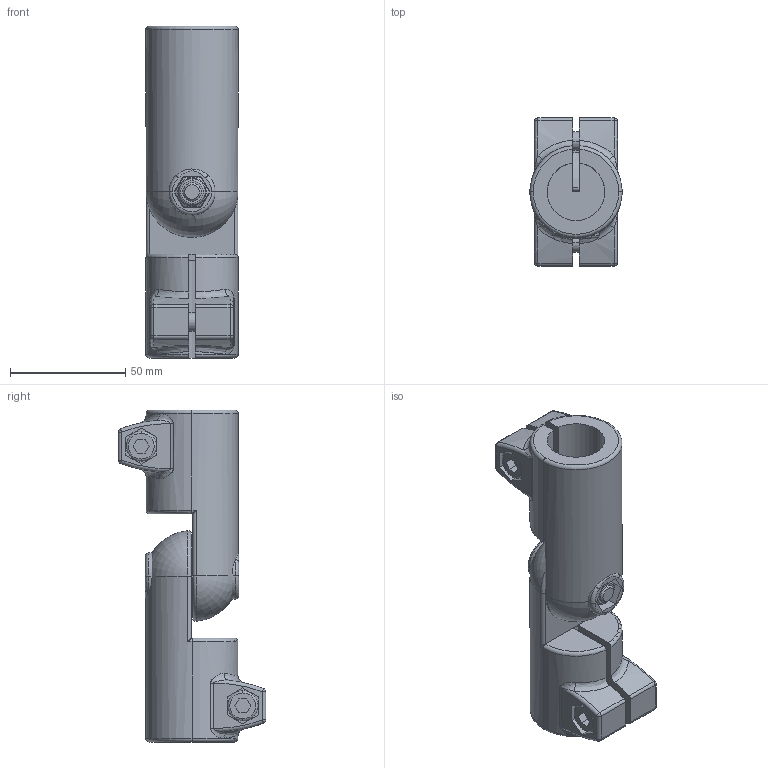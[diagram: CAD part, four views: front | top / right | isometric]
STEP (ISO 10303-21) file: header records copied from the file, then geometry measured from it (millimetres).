
FILE_DESCRIPTION (( 'STEP AP214' ), '1' );
FILE_NAME ('286-B25-B30-T-2-SW.step', '2021-12-02T12:14:23', ( '' ), ( '' ), 'SwSTEP 2.0', 'SolidWorks 2019', '' );
FILE_SCHEMA (( 'AUTOMOTIVE_DESIGN' ));
Length unit declared in the file: millimetre
Products named in the file (3): WB276^WB286_B25-IV-2-SW; WB276_1^WB286_B30-AV-2-SW; 286-B25-B30-T-2-SW
Assembly tree (2 placements, depth 2):
  286-B25-B30-T-2-SW
    WB276^WB286_B25-IV-2-SW
    WB276_1^WB286_B30-AV-2-SW
Bounding box: 40 x 64 x 144 mm (x, y, z)
Volume: 125671.7 mm3; surface area: 44128.9 mm2
Topology: 2 solids, 2 shells, 514 faces, 1304 edges, 814 vertices
Faces by surface type: plane 304, cylinder 108, torus 50, cone 24, bspline 20, sphere 8
Entity records: 19158 total; most frequent: CARTESIAN_POINT 5891, ORIENTED_EDGE 2592, DIRECTION 2422, EDGE_CURVE 1296, AXIS2_PLACEMENT_3D 931, VERTEX_POINT 814, LINE 560, VECTOR 560
